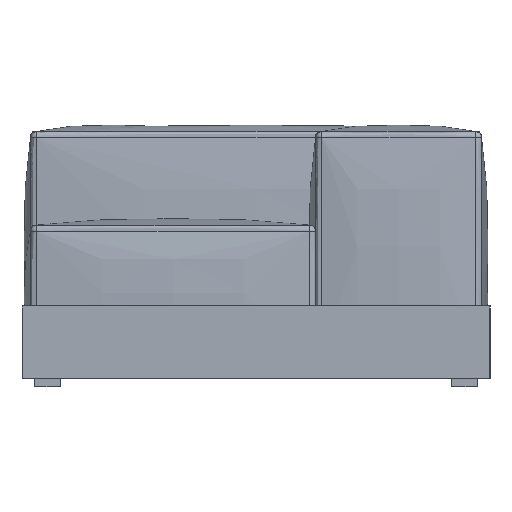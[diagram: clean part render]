
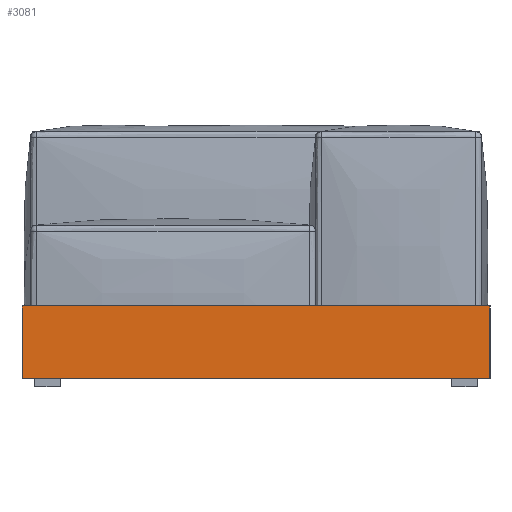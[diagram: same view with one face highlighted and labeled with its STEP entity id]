
A CAD part, left-side view. The second image highlights one B-rep face of the part: STEP entity #3081.
In plain terms, the highlighted planar face has unit normal (-1, 0, 0).
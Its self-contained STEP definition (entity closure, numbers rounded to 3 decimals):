
#106=PLANE('',#3433);
#222=LINE('',#14241,#422);
#223=LINE('',#14243,#423);
#224=LINE('',#14245,#424);
#225=LINE('',#14246,#425);
#422=VECTOR('',#3938,10.);
#423=VECTOR('',#3939,10.);
#424=VECTOR('',#3940,10.);
#425=VECTOR('',#3941,10.);
#925=FACE_OUTER_BOUND('',#1151,.T.);
#1151=EDGE_LOOP('',(#2563,#2564,#2565,#2566));
#1491=VERTEX_POINT('',#14239);
#1492=VERTEX_POINT('',#14240);
#1493=VERTEX_POINT('',#14242);
#1494=VERTEX_POINT('',#14244);
#1867=EDGE_CURVE('',#1491,#1492,#222,.T.);
#1868=EDGE_CURVE('',#1491,#1493,#223,.T.);
#1869=EDGE_CURVE('',#1494,#1493,#224,.T.);
#1870=EDGE_CURVE('',#1492,#1494,#225,.T.);
#2563=ORIENTED_EDGE('',*,*,#1867,.F.);
#2564=ORIENTED_EDGE('',*,*,#1868,.T.);
#2565=ORIENTED_EDGE('',*,*,#1869,.F.);
#2566=ORIENTED_EDGE('',*,*,#1870,.F.);
#3081=ADVANCED_FACE('',(#925),#106,.T.);
#3433=AXIS2_PLACEMENT_3D('',#14238,#3936,#3937);
#3936=DIRECTION('center_axis',(-1.,0.,0.));
#3937=DIRECTION('ref_axis',(0.,-1.,0.));
#3938=DIRECTION('',(0.,1.,0.));
#3939=DIRECTION('',(0.,0.,1.));
#3940=DIRECTION('',(0.,-1.,0.));
#3941=DIRECTION('',(0.,0.,1.));
#14238=CARTESIAN_POINT('Origin',(-1100.,550.,0.));
#14239=CARTESIAN_POINT('',(-1100.,-550.,0.));
#14240=CARTESIAN_POINT('',(-1100.,550.,0.));
#14241=CARTESIAN_POINT('',(-1100.,-550.,0.));
#14242=CARTESIAN_POINT('',(-1100.,-550.,170.));
#14243=CARTESIAN_POINT('',(-1100.,-550.,0.));
#14244=CARTESIAN_POINT('',(-1100.,550.,170.));
#14245=CARTESIAN_POINT('',(-1100.,-550.,170.));
#14246=CARTESIAN_POINT('',(-1100.,550.,0.));
